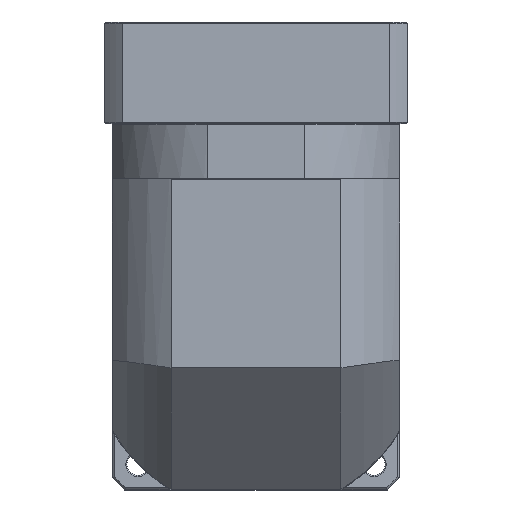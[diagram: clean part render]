
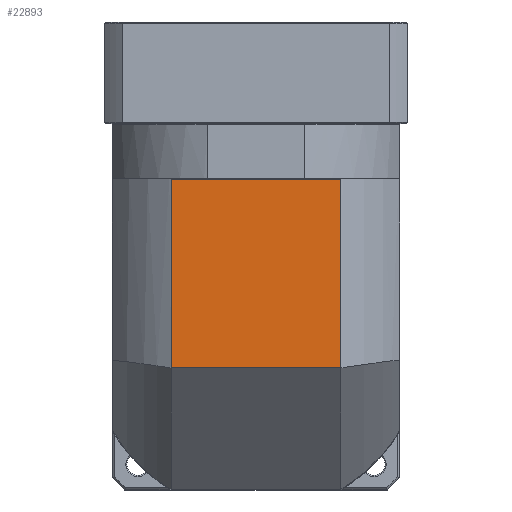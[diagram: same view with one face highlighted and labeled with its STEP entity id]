
A CAD part, top view. The second image highlights one B-rep face of the part: STEP entity #22893.
In plain terms, the highlighted planar face has unit normal (0, 0, 1).
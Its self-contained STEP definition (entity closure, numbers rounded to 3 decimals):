
#5259 = CARTESIAN_POINT ( 'NONE',  ( -213.742, 171.476, 157.857 ) ) ;
#5822 = DIRECTION ( 'NONE',  ( 0., 0., -1. ) ) ;
#8568 = VERTEX_POINT ( 'NONE', #23695 ) ;
#9650 = CARTESIAN_POINT ( 'NONE',  ( -242.727, 78.476, 157.857 ) ) ;
#16006 = DIRECTION ( 'NONE',  ( 0., 1., 0. ) ) ;
#22893 = ADVANCED_FACE ( 'NONE', ( #27901 ), #36110, .F. ) ;
#23695 = CARTESIAN_POINT ( 'NONE',  ( -129.712, 78.476, 157.857 ) ) ;
#27901 = FACE_OUTER_BOUND ( 'NONE', #111507, .T. ) ;
#33733 = EDGE_CURVE ( 'NONE', #8568, #72967, #68540, .T. ) ;
#36110 = PLANE ( 'NONE',  #61657 ) ;
#38660 = EDGE_CURVE ( 'NONE', #101137, #45079, #138419, .T. ) ;
#44313 = VECTOR ( 'NONE', #86029, 1000. ) ;
#45079 = VERTEX_POINT ( 'NONE', #128133 ) ;
#51455 = VECTOR ( 'NONE', #16006, 1000. ) ;
#53287 = ORIENTED_EDGE ( 'NONE', *, *, #33733, .F. ) ;
#56166 = LINE ( 'NONE', #119180, #44313 ) ;
#59745 = DIRECTION ( 'NONE',  ( 1., 0., 0. ) ) ;
#61657 = AXIS2_PLACEMENT_3D ( 'NONE', #124138, #5822, #59745 ) ;
#61675 = LINE ( 'NONE', #70814, #51455 ) ;
#68540 = LINE ( 'NONE', #9650, #80446 ) ;
#70814 = CARTESIAN_POINT ( 'NONE',  ( -213.742, -174.628, 157.857 ) ) ;
#71719 = CARTESIAN_POINT ( 'NONE',  ( -242.727, 171.476, 157.857 ) ) ;
#72967 = VERTEX_POINT ( 'NONE', #80356 ) ;
#73746 = ORIENTED_EDGE ( 'NONE', *, *, #121601, .F. ) ;
#80356 = CARTESIAN_POINT ( 'NONE',  ( -213.742, 78.476, 157.857 ) ) ;
#80446 = VECTOR ( 'NONE', #94785, 1000. ) ;
#84932 = ORIENTED_EDGE ( 'NONE', *, *, #123934, .F. ) ;
#86029 = DIRECTION ( 'NONE',  ( 0., -1., 0. ) ) ;
#94785 = DIRECTION ( 'NONE',  ( -1., 0., 0. ) ) ;
#101137 = VERTEX_POINT ( 'NONE', #5259 ) ;
#108339 = ORIENTED_EDGE ( 'NONE', *, *, #38660, .F. ) ;
#111507 = EDGE_LOOP ( 'NONE', ( #53287, #73746, #108339, #84932 ) ) ;
#115271 = DIRECTION ( 'NONE',  ( 1., 0., 0. ) ) ;
#119180 = CARTESIAN_POINT ( 'NONE',  ( -129.712, -174.628, 157.857 ) ) ;
#121601 = EDGE_CURVE ( 'NONE', #45079, #8568, #56166, .T. ) ;
#123934 = EDGE_CURVE ( 'NONE', #72967, #101137, #61675, .T. ) ;
#124138 = CARTESIAN_POINT ( 'NONE',  ( -242.727, 171.976, 157.857 ) ) ;
#128133 = CARTESIAN_POINT ( 'NONE',  ( -129.712, 171.476, 157.857 ) ) ;
#128402 = VECTOR ( 'NONE', #115271, 1000. ) ;
#138419 = LINE ( 'NONE', #71719, #128402 ) ;
